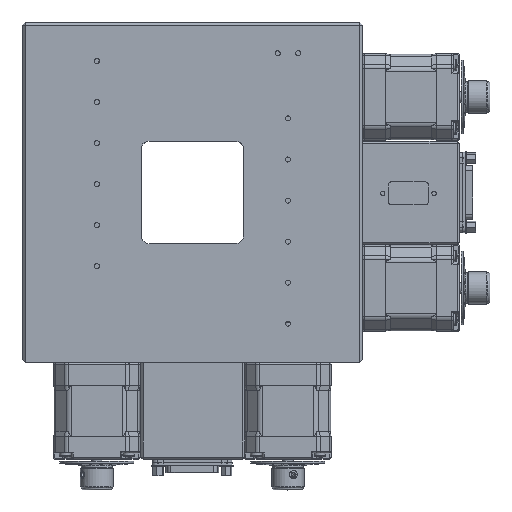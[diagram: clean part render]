
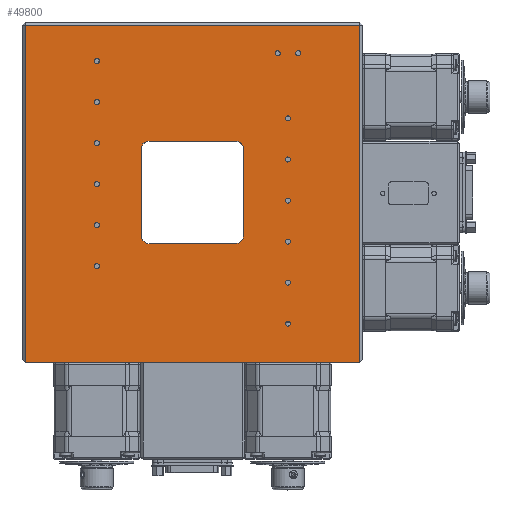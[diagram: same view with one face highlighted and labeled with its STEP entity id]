
A CAD part, top view. The second image highlights one B-rep face of the part: STEP entity #49800.
In plain terms, the highlighted planar face has unit normal (0, 0, 1) as drawn and (0, 0, -1) by its records, which use the part's own axes.
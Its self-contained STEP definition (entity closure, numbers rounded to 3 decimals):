
#4250=PLANE('',#53067);
#8083=LINE('',#91903,#11985);
#8125=LINE('',#92153,#12027);
#8126=LINE('',#92155,#12028);
#8127=LINE('',#92157,#12029);
#8133=LINE('',#92178,#12035);
#8136=LINE('',#92186,#12038);
#8139=LINE('',#92194,#12041);
#8141=LINE('',#92200,#12043);
#11985=VECTOR('',#63009,163.);
#12027=VECTOR('',#63335,164.5);
#12028=VECTOR('',#63338,163.);
#12029=VECTOR('',#63341,164.5);
#12035=VECTOR('',#63367,42.);
#12038=VECTOR('',#63376,42.);
#12041=VECTOR('',#63385,42.);
#12043=VECTOR('',#63393,42.);
#13336=FACE_BOUND('',#19431,.T.);
#13337=FACE_BOUND('',#19432,.T.);
#13338=FACE_BOUND('',#19433,.T.);
#13339=FACE_BOUND('',#19434,.T.);
#13340=FACE_BOUND('',#19435,.T.);
#13341=FACE_BOUND('',#19436,.T.);
#13342=FACE_BOUND('',#19437,.T.);
#13343=FACE_BOUND('',#19438,.T.);
#13344=FACE_BOUND('',#19439,.T.);
#13345=FACE_BOUND('',#19440,.T.);
#13346=FACE_BOUND('',#19441,.T.);
#13347=FACE_BOUND('',#19442,.T.);
#13348=FACE_BOUND('',#19443,.T.);
#13349=FACE_BOUND('',#19444,.T.);
#13350=FACE_BOUND('',#19445,.T.);
#16095=FACE_OUTER_BOUND('',#19430,.T.);
#19430=EDGE_LOOP('',(#46561,#46562,#46563,#46564));
#19431=EDGE_LOOP('',(#46565));
#19432=EDGE_LOOP('',(#46566));
#19433=EDGE_LOOP('',(#46567));
#19434=EDGE_LOOP('',(#46568));
#19435=EDGE_LOOP('',(#46569));
#19436=EDGE_LOOP('',(#46570));
#19437=EDGE_LOOP('',(#46571));
#19438=EDGE_LOOP('',(#46572));
#19439=EDGE_LOOP('',(#46573));
#19440=EDGE_LOOP('',(#46574));
#19441=EDGE_LOOP('',(#46575));
#19442=EDGE_LOOP('',(#46576));
#19443=EDGE_LOOP('',(#46577));
#19444=EDGE_LOOP('',(#46578));
#19445=EDGE_LOOP('',(#46579,#46580,#46581,#46582,#46583,#46584,#46585,#46586));
#20547=CIRCLE('',#52936,1.23);
#20548=CIRCLE('',#52938,1.23);
#20577=CIRCLE('',#53014,4.);
#20578=CIRCLE('',#53017,4.);
#20579=CIRCLE('',#53020,4.);
#20580=CIRCLE('',#53023,4.);
#20581=CIRCLE('',#53028,1.23);
#20582=CIRCLE('',#53030,1.23);
#20584=CIRCLE('',#53033,1.23);
#20585=CIRCLE('',#53035,1.23);
#20587=CIRCLE('',#53038,1.23);
#20588=CIRCLE('',#53040,1.23);
#20590=CIRCLE('',#53043,1.23);
#20591=CIRCLE('',#53045,1.23);
#20593=CIRCLE('',#53048,1.23);
#20594=CIRCLE('',#53050,1.23);
#20596=CIRCLE('',#53053,1.23);
#20598=CIRCLE('',#53056,1.23);
#25266=VERTEX_POINT('',#91900);
#25267=VERTEX_POINT('',#91902);
#25300=VERTEX_POINT('',#92019);
#25301=VERTEX_POINT('',#92022);
#25332=VERTEX_POINT('',#92144);
#25333=VERTEX_POINT('',#92148);
#25336=VERTEX_POINT('',#92170);
#25337=VERTEX_POINT('',#92172);
#25338=VERTEX_POINT('',#92176);
#25339=VERTEX_POINT('',#92180);
#25340=VERTEX_POINT('',#92182);
#25341=VERTEX_POINT('',#92188);
#25342=VERTEX_POINT('',#92190);
#25343=VERTEX_POINT('',#92196);
#25344=VERTEX_POINT('',#92204);
#25345=VERTEX_POINT('',#92207);
#25347=VERTEX_POINT('',#92212);
#25348=VERTEX_POINT('',#92215);
#25350=VERTEX_POINT('',#92220);
#25351=VERTEX_POINT('',#92223);
#25353=VERTEX_POINT('',#92228);
#25354=VERTEX_POINT('',#92231);
#25356=VERTEX_POINT('',#92236);
#25357=VERTEX_POINT('',#92239);
#25359=VERTEX_POINT('',#92244);
#25361=VERTEX_POINT('',#92249);
#32294=EDGE_CURVE('',#25266,#25267,#8083,.T.);
#32333=EDGE_CURVE('',#25300,#25300,#20547,.T.);
#32334=EDGE_CURVE('',#25301,#25301,#20548,.T.);
#32393=EDGE_CURVE('',#25267,#25333,#8125,.T.);
#32394=EDGE_CURVE('',#25333,#25332,#8126,.T.);
#32395=EDGE_CURVE('',#25332,#25266,#8127,.T.);
#32401=EDGE_CURVE('',#25336,#25337,#20577,.T.);
#32404=EDGE_CURVE('',#25336,#25338,#8133,.T.);
#32406=EDGE_CURVE('',#25339,#25340,#20578,.T.);
#32408=EDGE_CURVE('',#25339,#25337,#8136,.T.);
#32410=EDGE_CURVE('',#25341,#25342,#20579,.T.);
#32412=EDGE_CURVE('',#25341,#25340,#8139,.T.);
#32414=EDGE_CURVE('',#25343,#25338,#20580,.T.);
#32415=EDGE_CURVE('',#25343,#25342,#8141,.T.);
#32416=EDGE_CURVE('',#25344,#25344,#20581,.T.);
#32417=EDGE_CURVE('',#25345,#25345,#20582,.T.);
#32419=EDGE_CURVE('',#25347,#25347,#20584,.T.);
#32420=EDGE_CURVE('',#25348,#25348,#20585,.T.);
#32422=EDGE_CURVE('',#25350,#25350,#20587,.T.);
#32423=EDGE_CURVE('',#25351,#25351,#20588,.T.);
#32425=EDGE_CURVE('',#25353,#25353,#20590,.T.);
#32426=EDGE_CURVE('',#25354,#25354,#20591,.T.);
#32428=EDGE_CURVE('',#25356,#25356,#20593,.T.);
#32429=EDGE_CURVE('',#25357,#25357,#20594,.T.);
#32431=EDGE_CURVE('',#25359,#25359,#20596,.T.);
#32433=EDGE_CURVE('',#25361,#25361,#20598,.T.);
#46561=ORIENTED_EDGE('',*,*,#32393,.F.);
#46562=ORIENTED_EDGE('',*,*,#32294,.F.);
#46563=ORIENTED_EDGE('',*,*,#32395,.F.);
#46564=ORIENTED_EDGE('',*,*,#32394,.F.);
#46565=ORIENTED_EDGE('',*,*,#32333,.T.);
#46566=ORIENTED_EDGE('',*,*,#32334,.T.);
#46567=ORIENTED_EDGE('',*,*,#32416,.T.);
#46568=ORIENTED_EDGE('',*,*,#32417,.T.);
#46569=ORIENTED_EDGE('',*,*,#32419,.T.);
#46570=ORIENTED_EDGE('',*,*,#32420,.T.);
#46571=ORIENTED_EDGE('',*,*,#32422,.T.);
#46572=ORIENTED_EDGE('',*,*,#32423,.T.);
#46573=ORIENTED_EDGE('',*,*,#32425,.T.);
#46574=ORIENTED_EDGE('',*,*,#32426,.T.);
#46575=ORIENTED_EDGE('',*,*,#32428,.T.);
#46576=ORIENTED_EDGE('',*,*,#32429,.T.);
#46577=ORIENTED_EDGE('',*,*,#32431,.T.);
#46578=ORIENTED_EDGE('',*,*,#32433,.T.);
#46579=ORIENTED_EDGE('',*,*,#32408,.T.);
#46580=ORIENTED_EDGE('',*,*,#32401,.F.);
#46581=ORIENTED_EDGE('',*,*,#32404,.T.);
#46582=ORIENTED_EDGE('',*,*,#32414,.F.);
#46583=ORIENTED_EDGE('',*,*,#32415,.T.);
#46584=ORIENTED_EDGE('',*,*,#32410,.F.);
#46585=ORIENTED_EDGE('',*,*,#32412,.T.);
#46586=ORIENTED_EDGE('',*,*,#32406,.F.);
#49800=ADVANCED_FACE('',(#16095,#13336,#13337,#13338,#13339,#13340,#13341,
#13342,#13343,#13344,#13345,#13346,#13347,#13348,#13349,#13350),#4250,.F.);
#52936=AXIS2_PLACEMENT_3D('',#92020,#63167,#63168);
#52938=AXIS2_PLACEMENT_3D('',#92023,#63171,#63172);
#53014=AXIS2_PLACEMENT_3D('',#92173,#63361,#63362);
#53017=AXIS2_PLACEMENT_3D('',#92183,#63371,#63372);
#53020=AXIS2_PLACEMENT_3D('',#92191,#63380,#63381);
#53023=AXIS2_PLACEMENT_3D('',#92198,#63389,#63390);
#53028=AXIS2_PLACEMENT_3D('',#92205,#63400,#63401);
#53030=AXIS2_PLACEMENT_3D('',#92208,#63404,#63405);
#53033=AXIS2_PLACEMENT_3D('',#92213,#63410,#63411);
#53035=AXIS2_PLACEMENT_3D('',#92216,#63414,#63415);
#53038=AXIS2_PLACEMENT_3D('',#92221,#63420,#63421);
#53040=AXIS2_PLACEMENT_3D('',#92224,#63424,#63425);
#53043=AXIS2_PLACEMENT_3D('',#92229,#63430,#63431);
#53045=AXIS2_PLACEMENT_3D('',#92232,#63434,#63435);
#53048=AXIS2_PLACEMENT_3D('',#92237,#63440,#63441);
#53050=AXIS2_PLACEMENT_3D('',#92240,#63444,#63445);
#53053=AXIS2_PLACEMENT_3D('',#92245,#63450,#63451);
#53056=AXIS2_PLACEMENT_3D('',#92250,#63456,#63457);
#53067=AXIS2_PLACEMENT_3D('',#92273,#63486,#63487);
#63009=DIRECTION('',(0.,1.,0.));
#63167=DIRECTION('center_axis',(0.,0.,1.));
#63168=DIRECTION('ref_axis',(1.,0.,0.));
#63171=DIRECTION('center_axis',(0.,0.,1.));
#63172=DIRECTION('ref_axis',(1.,0.,0.));
#63335=DIRECTION('',(-1.,0.,0.));
#63338=DIRECTION('',(0.,-1.,0.));
#63341=DIRECTION('',(1.,0.,0.));
#63361=DIRECTION('center_axis',(0.,0.,-1.));
#63362=DIRECTION('ref_axis',(-0.707,-0.707,0.));
#63367=DIRECTION('',(1.,0.,0.));
#63371=DIRECTION('center_axis',(0.,0.,-1.));
#63372=DIRECTION('ref_axis',(-0.707,0.707,0.));
#63376=DIRECTION('',(0.,-1.,0.));
#63380=DIRECTION('center_axis',(0.,0.,-1.));
#63381=DIRECTION('ref_axis',(0.707,0.707,0.));
#63385=DIRECTION('',(-1.,0.,0.));
#63389=DIRECTION('center_axis',(0.,0.,-1.));
#63390=DIRECTION('ref_axis',(0.707,-0.707,0.));
#63393=DIRECTION('',(0.,1.,0.));
#63400=DIRECTION('center_axis',(0.,0.,1.));
#63401=DIRECTION('ref_axis',(1.,0.,0.));
#63404=DIRECTION('center_axis',(0.,0.,1.));
#63405=DIRECTION('ref_axis',(1.,0.,0.));
#63410=DIRECTION('center_axis',(0.,0.,1.));
#63411=DIRECTION('ref_axis',(1.,0.,0.));
#63414=DIRECTION('center_axis',(0.,0.,1.));
#63415=DIRECTION('ref_axis',(1.,0.,0.));
#63420=DIRECTION('center_axis',(0.,0.,1.));
#63421=DIRECTION('ref_axis',(1.,0.,0.));
#63424=DIRECTION('center_axis',(0.,0.,1.));
#63425=DIRECTION('ref_axis',(1.,0.,0.));
#63430=DIRECTION('center_axis',(0.,0.,1.));
#63431=DIRECTION('ref_axis',(1.,0.,0.));
#63434=DIRECTION('center_axis',(0.,0.,1.));
#63435=DIRECTION('ref_axis',(1.,0.,0.));
#63440=DIRECTION('center_axis',(0.,0.,1.));
#63441=DIRECTION('ref_axis',(1.,0.,0.));
#63444=DIRECTION('center_axis',(0.,0.,1.));
#63445=DIRECTION('ref_axis',(1.,0.,0.));
#63450=DIRECTION('center_axis',(0.,0.,1.));
#63451=DIRECTION('ref_axis',(1.,0.,0.));
#63456=DIRECTION('center_axis',(0.,0.,1.));
#63457=DIRECTION('ref_axis',(1.,0.,0.));
#63486=DIRECTION('center_axis',(0.,0.,1.));
#63487=DIRECTION('ref_axis',(1.,0.,0.));
#91900=CARTESIAN_POINT('',(0.,1.5,-39.));
#91902=CARTESIAN_POINT('',(0.,164.5,-39.));
#91903=CARTESIAN_POINT('',(0.,166.,-39.));
#92019=CARTESIAN_POINT('',(-151.98,31.45,-39.));
#92020=CARTESIAN_POINT('Origin',(-150.75,31.45,-39.));
#92022=CARTESIAN_POINT('',(-151.98,41.45,-39.));
#92023=CARTESIAN_POINT('Origin',(-150.75,41.45,-39.));
#92144=CARTESIAN_POINT('',(-164.5,1.5,-39.));
#92148=CARTESIAN_POINT('',(-164.5,164.5,-39.));
#92153=CARTESIAN_POINT('',(-41.5,164.5,-39.));
#92155=CARTESIAN_POINT('',(-164.5,124.5,-39.));
#92157=CARTESIAN_POINT('',(-124.5,1.5,-39.));
#92170=CARTESIAN_POINT('',(-104.,58.,-39.));
#92172=CARTESIAN_POINT('',(-108.,62.,-39.));
#92173=CARTESIAN_POINT('Origin',(-104.,62.,-39.));
#92176=CARTESIAN_POINT('',(-62.,58.,-39.));
#92178=CARTESIAN_POINT('',(-95.5,58.,-39.));
#92180=CARTESIAN_POINT('',(-108.,104.,-39.));
#92182=CARTESIAN_POINT('',(-104.,108.,-39.));
#92183=CARTESIAN_POINT('Origin',(-104.,104.,-39.));
#92186=CARTESIAN_POINT('',(-108.,95.5,-39.));
#92188=CARTESIAN_POINT('',(-62.,108.,-39.));
#92190=CARTESIAN_POINT('',(-58.,104.,-39.));
#92191=CARTESIAN_POINT('Origin',(-62.,104.,-39.));
#92194=CARTESIAN_POINT('',(-70.5,108.,-39.));
#92196=CARTESIAN_POINT('',(-58.,62.,-39.));
#92198=CARTESIAN_POINT('Origin',(-62.,62.,-39.));
#92200=CARTESIAN_POINT('',(-58.,70.5,-39.));
#92204=CARTESIAN_POINT('',(-120.23,36.45,-39.));
#92205=CARTESIAN_POINT('Origin',(-119.,36.45,-39.));
#92207=CARTESIAN_POINT('',(-148.23,129.55,-39.));
#92208=CARTESIAN_POINT('Origin',(-147.,129.55,-39.));
#92212=CARTESIAN_POINT('',(-100.23,36.45,-39.));
#92213=CARTESIAN_POINT('Origin',(-99.,36.45,-39.));
#92215=CARTESIAN_POINT('',(-128.23,129.55,-39.));
#92216=CARTESIAN_POINT('Origin',(-127.,129.55,-39.));
#92220=CARTESIAN_POINT('',(-80.23,36.45,-39.));
#92221=CARTESIAN_POINT('Origin',(-79.,36.45,-39.));
#92223=CARTESIAN_POINT('',(-108.23,129.55,-39.));
#92224=CARTESIAN_POINT('Origin',(-107.,129.55,-39.));
#92228=CARTESIAN_POINT('',(-60.23,36.45,-39.));
#92229=CARTESIAN_POINT('Origin',(-59.,36.45,-39.));
#92231=CARTESIAN_POINT('',(-88.23,129.55,-39.));
#92232=CARTESIAN_POINT('Origin',(-87.,129.55,-39.));
#92236=CARTESIAN_POINT('',(-40.23,36.45,-39.));
#92237=CARTESIAN_POINT('Origin',(-39.,36.45,-39.));
#92239=CARTESIAN_POINT('',(-68.23,129.55,-39.));
#92240=CARTESIAN_POINT('Origin',(-67.,129.55,-39.));
#92244=CARTESIAN_POINT('',(-48.23,129.55,-39.));
#92245=CARTESIAN_POINT('Origin',(-47.,129.55,-39.));
#92249=CARTESIAN_POINT('',(-20.23,36.45,-39.));
#92250=CARTESIAN_POINT('Origin',(-19.,36.45,-39.));
#92273=CARTESIAN_POINT('Origin',(-83.,83.,-39.));
